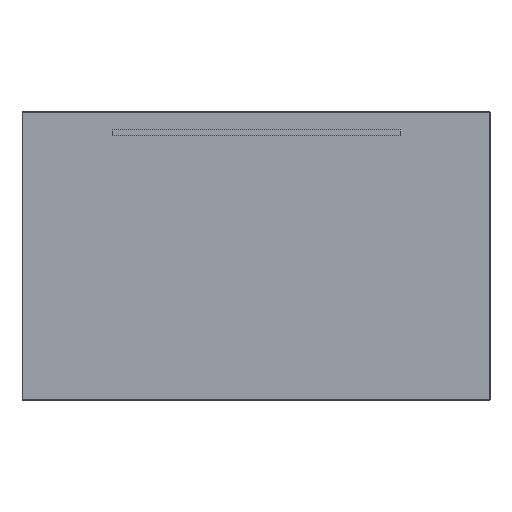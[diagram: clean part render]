
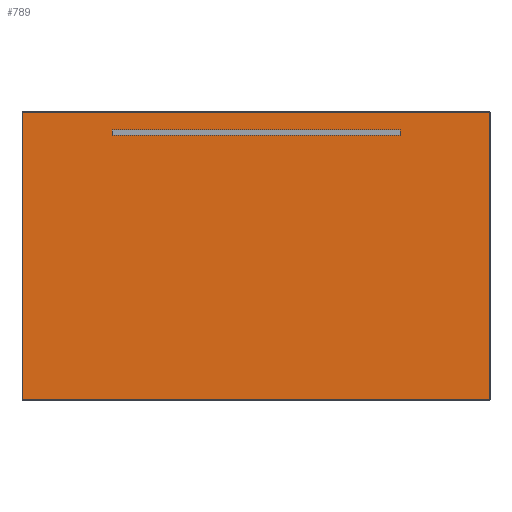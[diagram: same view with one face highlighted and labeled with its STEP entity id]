
A CAD part, top view. The second image highlights one B-rep face of the part: STEP entity #789.
In plain terms, the highlighted planar face has unit normal (0, 0, 1).
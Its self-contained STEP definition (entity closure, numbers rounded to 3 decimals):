
#14 = DIRECTION ( 'NONE',  ( -1., 0., 0. ) ) ;
#22 = VECTOR ( 'NONE', #719, 1000. ) ;
#46 = VECTOR ( 'NONE', #1521, 1000. ) ;
#72 = LINE ( 'NONE', #1643, #884 ) ;
#92 = CARTESIAN_POINT ( 'NONE',  ( 400., 350., 4. ) ) ;
#122 = VERTEX_POINT ( 'NONE', #722 ) ;
#131 = CARTESIAN_POINT ( 'NONE',  ( -400., 350., 4. ) ) ;
#208 = EDGE_CURVE ( 'NONE', #122, #995, #72, .T. ) ;
#251 = FACE_OUTER_BOUND ( 'NONE', #1296, .T. ) ;
#275 = DIRECTION ( 'NONE',  ( -1., 0., 0. ) ) ;
#282 = ORIENTED_EDGE ( 'NONE', *, *, #491, .F. ) ;
#314 = CARTESIAN_POINT ( 'NONE',  ( 0., 0., 4. ) ) ;
#468 = CARTESIAN_POINT ( 'NONE',  ( -649.5, 399.5, 4. ) ) ;
#488 = CARTESIAN_POINT ( 'NONE',  ( -400., 335., 4. ) ) ;
#491 = EDGE_CURVE ( 'NONE', #1257, #864, #1081, .T. ) ;
#504 = CARTESIAN_POINT ( 'NONE',  ( 400., 350., 4. ) ) ;
#516 = LINE ( 'NONE', #131, #22 ) ;
#517 = FACE_BOUND ( 'NONE', #1835, .T. ) ;
#583 = DIRECTION ( 'NONE',  ( 0., -1., 0. ) ) ;
#591 = VERTEX_POINT ( 'NONE', #92 ) ;
#620 = VECTOR ( 'NONE', #1833, 1000. ) ;
#668 = VERTEX_POINT ( 'NONE', #699 ) ;
#674 = VECTOR ( 'NONE', #769, 1000. ) ;
#699 = CARTESIAN_POINT ( 'NONE',  ( 649.5, 399.5, 4. ) ) ;
#719 = DIRECTION ( 'NONE',  ( 0., -1., 0. ) ) ;
#722 = CARTESIAN_POINT ( 'NONE',  ( -649.5, -399.5, 4. ) ) ;
#769 = DIRECTION ( 'NONE',  ( 0., 1., 0. ) ) ;
#784 = LINE ( 'NONE', #1201, #674 ) ;
#789 = ADVANCED_FACE ( 'NONE', ( #517, #251 ), #869, .F. ) ;
#790 = ORIENTED_EDGE ( 'NONE', *, *, #1854, .T. ) ;
#817 = EDGE_CURVE ( 'NONE', #983, #122, #1029, .T. ) ;
#830 = LINE ( 'NONE', #1569, #1262 ) ;
#838 = ORIENTED_EDGE ( 'NONE', *, *, #1804, .F. ) ;
#864 = VERTEX_POINT ( 'NONE', #1308 ) ;
#869 = PLANE ( 'NONE',  #1475 ) ;
#872 = ORIENTED_EDGE ( 'NONE', *, *, #929, .T. ) ;
#884 = VECTOR ( 'NONE', #1507, 1000. ) ;
#909 = ORIENTED_EDGE ( 'NONE', *, *, #1509, .F. ) ;
#916 = CARTESIAN_POINT ( 'NONE',  ( 649.5, -399.5, 4. ) ) ;
#921 = LINE ( 'NONE', #504, #1842 ) ;
#929 = EDGE_CURVE ( 'NONE', #995, #668, #784, .T. ) ;
#952 = CARTESIAN_POINT ( 'NONE',  ( -400., 350., 4. ) ) ;
#966 = CARTESIAN_POINT ( 'NONE',  ( -400., 335., 4. ) ) ;
#983 = VERTEX_POINT ( 'NONE', #468 ) ;
#995 = VERTEX_POINT ( 'NONE', #916 ) ;
#1029 = LINE ( 'NONE', #1616, #1355 ) ;
#1081 = LINE ( 'NONE', #488, #46 ) ;
#1121 = ORIENTED_EDGE ( 'NONE', *, *, #1715, .F. ) ;
#1156 = DIRECTION ( 'NONE',  ( 0., 0., -1. ) ) ;
#1201 = CARTESIAN_POINT ( 'NONE',  ( 649.5, 0., 4. ) ) ;
#1257 = VERTEX_POINT ( 'NONE', #966 ) ;
#1262 = VECTOR ( 'NONE', #275, 1000. ) ;
#1296 = EDGE_LOOP ( 'NONE', ( #872, #790, #1634, #1489 ) ) ;
#1308 = CARTESIAN_POINT ( 'NONE',  ( 400., 335., 4. ) ) ;
#1355 = VECTOR ( 'NONE', #583, 1000. ) ;
#1388 = CARTESIAN_POINT ( 'NONE',  ( -400., 350., 4. ) ) ;
#1475 = AXIS2_PLACEMENT_3D ( 'NONE', #314, #1156, #14 ) ;
#1489 = ORIENTED_EDGE ( 'NONE', *, *, #208, .T. ) ;
#1507 = DIRECTION ( 'NONE',  ( 1., 0., 0. ) ) ;
#1509 = EDGE_CURVE ( 'NONE', #1731, #1257, #516, .T. ) ;
#1521 = DIRECTION ( 'NONE',  ( 1., 0., 0. ) ) ;
#1569 = CARTESIAN_POINT ( 'NONE',  ( 0., 399.5, 4. ) ) ;
#1616 = CARTESIAN_POINT ( 'NONE',  ( -649.5, 0., 4. ) ) ;
#1634 = ORIENTED_EDGE ( 'NONE', *, *, #817, .T. ) ;
#1643 = CARTESIAN_POINT ( 'NONE',  ( 0., -399.5, 4. ) ) ;
#1707 = LINE ( 'NONE', #1388, #620 ) ;
#1715 = EDGE_CURVE ( 'NONE', #591, #1731, #1707, .T. ) ;
#1731 = VERTEX_POINT ( 'NONE', #952 ) ;
#1804 = EDGE_CURVE ( 'NONE', #864, #591, #921, .T. ) ;
#1833 = DIRECTION ( 'NONE',  ( -1., 0., 0. ) ) ;
#1835 = EDGE_LOOP ( 'NONE', ( #282, #909, #1121, #838 ) ) ;
#1842 = VECTOR ( 'NONE', #1846, 1000. ) ;
#1846 = DIRECTION ( 'NONE',  ( 0., 1., 0. ) ) ;
#1854 = EDGE_CURVE ( 'NONE', #668, #983, #830, .T. ) ;
